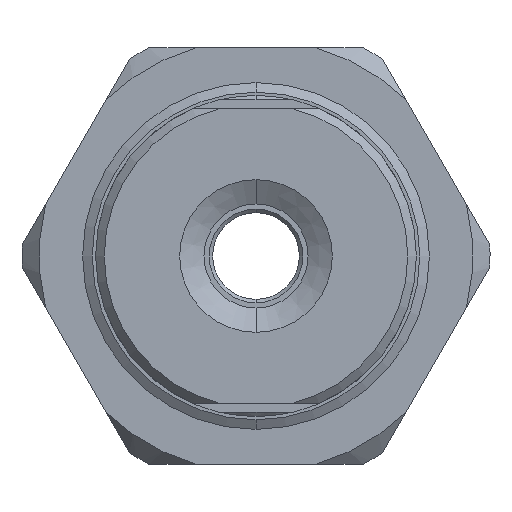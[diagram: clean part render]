
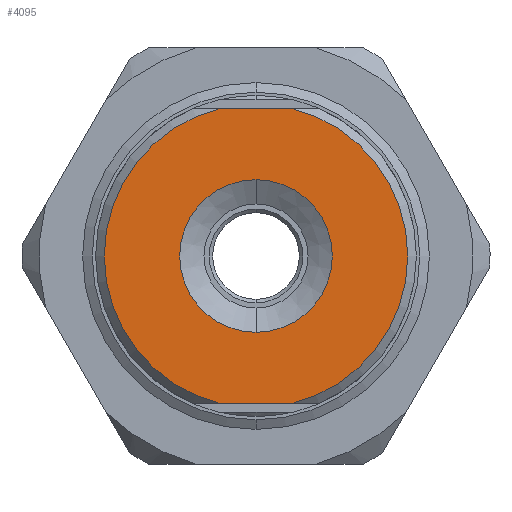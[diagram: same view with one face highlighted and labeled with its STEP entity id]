
A CAD part, front view. The second image highlights one B-rep face of the part: STEP entity #4095.
In plain terms, the highlighted planar face has unit normal (0, -1, 0).
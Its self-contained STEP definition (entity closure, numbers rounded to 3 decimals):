
#86 = DIRECTION ( 'NONE',  ( 0., -1., 0. ) ) ;
#1870 = AXIS2_PLACEMENT_3D ( 'NONE', #9925, #27970, #12513 ) ;
#2578 = DIRECTION ( 'NONE',  ( 1., 0., 0. ) ) ;
#4095 = ADVANCED_FACE ( 'NONE', ( #30409, #10632 ), #9815, .F. ) ;
#4627 = CARTESIAN_POINT ( 'NONE',  ( 0.405, -10.212, 28.5 ) ) ;
#5329 = DIRECTION ( 'NONE',  ( 1., 0., 0. ) ) ;
#6060 = ORIENTED_EDGE ( 'NONE', *, *, #11865, .F. ) ;
#7734 = AXIS2_PLACEMENT_3D ( 'NONE', #9475, #27534, #12080 ) ;
#8560 = CARTESIAN_POINT ( 'NONE',  ( -1.672, -10.212, 20. ) ) ;
#8871 = CARTESIAN_POINT ( 'NONE',  ( -1.672, -10.212, 24.4 ) ) ;
#9475 = CARTESIAN_POINT ( 'NONE',  ( -1.672, -10.212, 20. ) ) ;
#9815 = PLANE ( 'NONE',  #1870 ) ;
#9925 = CARTESIAN_POINT ( 'NONE',  ( -1.672, -10.212, 20. ) ) ;
#10632 = FACE_OUTER_BOUND ( 'NONE', #16131, .T. ) ;
#11196 = DIRECTION ( 'NONE',  ( 0., 0., 1. ) ) ;
#11328 = VECTOR ( 'NONE', #2578, 1000. ) ;
#11865 = EDGE_CURVE ( 'NONE', #20557, #22727, #18188, .T. ) ;
#12002 = EDGE_CURVE ( 'NONE', #20557, #26652, #19758, .T. ) ;
#12080 = DIRECTION ( 'NONE',  ( 0., 0., -1. ) ) ;
#12433 = EDGE_CURVE ( 'NONE', #26652, #15356, #26130, .T. ) ;
#12513 = DIRECTION ( 'NONE',  ( 0., 0., 1. ) ) ;
#12594 = VERTEX_POINT ( 'NONE', #8871 ) ;
#15356 = VERTEX_POINT ( 'NONE', #20500 ) ;
#15380 = CARTESIAN_POINT ( 'NONE',  ( -3.748, -10.212, 28.5 ) ) ;
#15417 = DIRECTION ( 'NONE',  ( 0., -1., 0. ) ) ;
#15580 = CARTESIAN_POINT ( 'NONE',  ( -1.672, -10.212, 20. ) ) ;
#15658 = CARTESIAN_POINT ( 'NONE',  ( -1.672, -10.212, 11.5 ) ) ;
#16131 = EDGE_LOOP ( 'NONE', ( #18261, #27906, #29922, #6060 ) ) ;
#17149 = EDGE_CURVE ( 'NONE', #12594, #29074, #19655, .T. ) ;
#17887 = AXIS2_PLACEMENT_3D ( 'NONE', #15580, #86, #18202 ) ;
#18188 = LINE ( 'NONE', #30953, #11328 ) ;
#18202 = DIRECTION ( 'NONE',  ( 0., 0., -1. ) ) ;
#18261 = ORIENTED_EDGE ( 'NONE', *, *, #12002, .T. ) ;
#19292 = VECTOR ( 'NONE', #5329, 1000. ) ;
#19520 = EDGE_CURVE ( 'NONE', #15356, #22727, #20286, .T. ) ;
#19655 = CIRCLE ( 'NONE', #7734, 4.4 ) ;
#19758 = CIRCLE ( 'NONE', #20728, 8.75 ) ;
#20286 = CIRCLE ( 'NONE', #32518, 8.75 ) ;
#20500 = CARTESIAN_POINT ( 'NONE',  ( 0.405, -10.212, 11.5 ) ) ;
#20557 = VERTEX_POINT ( 'NONE', #15380 ) ;
#20728 = AXIS2_PLACEMENT_3D ( 'NONE', #8560, #26650, #11196 ) ;
#20730 = CARTESIAN_POINT ( 'NONE',  ( -1.672, -10.212, 15.6 ) ) ;
#21487 = ORIENTED_EDGE ( 'NONE', *, *, #17149, .F. ) ;
#22727 = VERTEX_POINT ( 'NONE', #4627 ) ;
#23928 = EDGE_LOOP ( 'NONE', ( #25511, #21487 ) ) ;
#25511 = ORIENTED_EDGE ( 'NONE', *, *, #26633, .F. ) ;
#26130 = LINE ( 'NONE', #15658, #19292 ) ;
#26633 = EDGE_CURVE ( 'NONE', #29074, #12594, #30284, .T. ) ;
#26650 = DIRECTION ( 'NONE',  ( 0., -1., 0. ) ) ;
#26652 = VERTEX_POINT ( 'NONE', #33577 ) ;
#27534 = DIRECTION ( 'NONE',  ( 0., -1., 0. ) ) ;
#27906 = ORIENTED_EDGE ( 'NONE', *, *, #12433, .T. ) ;
#27970 = DIRECTION ( 'NONE',  ( 0., 1., 0. ) ) ;
#29074 = VERTEX_POINT ( 'NONE', #20730 ) ;
#29922 = ORIENTED_EDGE ( 'NONE', *, *, #19520, .T. ) ;
#30284 = CIRCLE ( 'NONE', #17887, 4.4 ) ;
#30409 = FACE_BOUND ( 'NONE', #23928, .T. ) ;
#30887 = CARTESIAN_POINT ( 'NONE',  ( -1.672, -10.212, 20. ) ) ;
#30953 = CARTESIAN_POINT ( 'NONE',  ( -9.014, -10.212, 28.5 ) ) ;
#32518 = AXIS2_PLACEMENT_3D ( 'NONE', #30887, #15417, #33522 ) ;
#33522 = DIRECTION ( 'NONE',  ( 0., 0., 1. ) ) ;
#33577 = CARTESIAN_POINT ( 'NONE',  ( -3.748, -10.212, 11.5 ) ) ;
